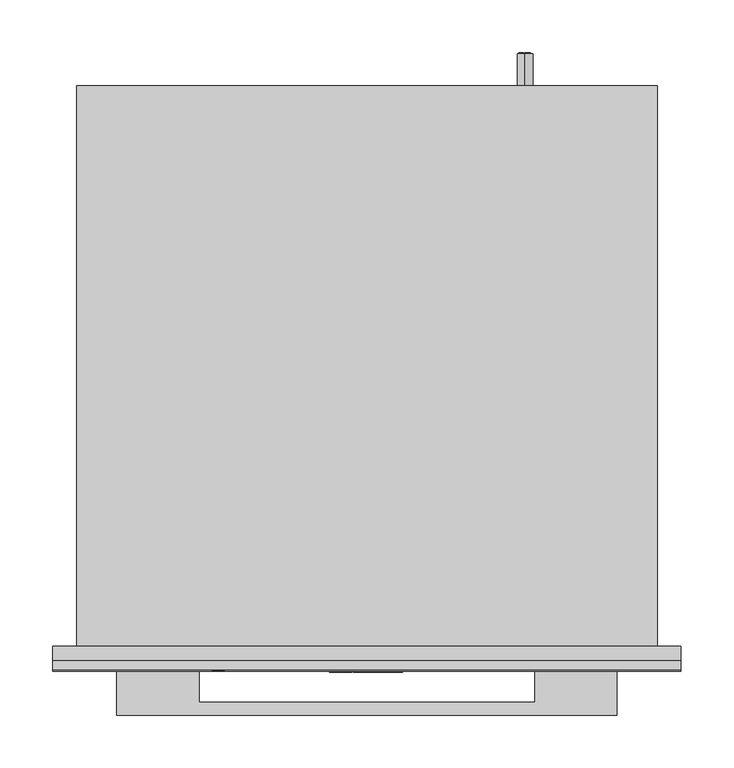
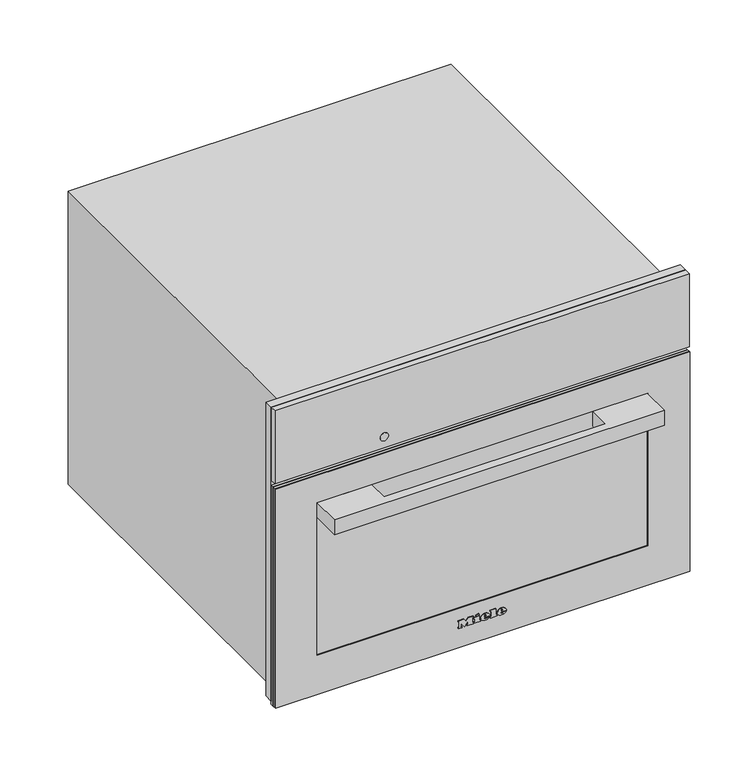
"""IFC4 building model written with IfcOpenShell, lengths in millimetres: proxy geometry, 11106480_D_DGM7340_EDST-CLST : 23734044_D_11106480_DGM7340_EDST-CLST."""

from ifc_helpers import new_model, si_unit, point, frame, frame_2d, origin, place, context, project, spatial, polyline, circle_curve, ellipse_curve, trimmed, segment, composite_curve, outline, extrude, faceted_brep, source, transform, mapped, element, save
from ifc_brep_helpers import plane_surface, cylinder_surface, revolved_surface, extruded_surface, advanced_brep


def specialty_equipment_3689ec75(model_context):
    return source(origin(), model_context, "Body", "SolidModel", [
        extrude(outline(polyline([(455.0, 297.5), (455.0, -297.5), (9.0, -297.5), (9.0, -272.5), (344.0, -272.5), (344.0, 272.5), (9.0, 272.5), (9.0, 297.5), (455.0, 297.5)])), frame((0.0, -13.0, 0.0), z_axis=(0.0, 1.0, 0.0), x_axis=(0.0, 0.0, 1.0)), (0.0, 0.0, 1.0), 13.0),
        advanced_brep(
        [(150.0, 561.0, 410.5), (150.0, 561.0, 395.5), (144.4098301, 561.0, 398.0), (148.5, 561.0, 398.0), (148.5, 561.0, 408.0), (147.4955303, 561.0, 408.0), (147.4955303, 561.0, 399.0), (144.0315043, 561.0, 399.0), (144.0315043, 561.0, 398.4582978), (155.0, 561.0, 398.0), (155.0, 561.0, 408.0), (150.0, 561.0, 408.0), (150.0, 561.0, 407.0), (154.0, 561.0, 407.0), (154.0, 561.0, 403.5), (151.0, 561.0, 403.5), (151.0, 561.0, 402.5), (154.0, 561.0, 402.5), (154.0, 561.0, 399.0), (150.0, 561.0, 399.0), (150.0, 561.0, 398.0), (150.0, 531.0, 395.5), (150.0, 531.0, 410.5), (155.0, 562.0, 408.0), (155.0, 562.0, 398.0), (150.0, 562.0, 398.0), (150.0, 562.0, 399.0), (154.0, 562.0, 399.0), (154.0, 562.0, 402.5), (151.0, 562.0, 402.5), (151.0, 562.0, 403.5), (154.0, 562.0, 403.5), (154.0, 562.0, 407.0), (150.0, 562.0, 407.0), (150.0, 562.0, 408.0), (148.5, 562.0, 398.0), (144.0315043, 562.0, 398.0), (144.0315043, 562.0, 399.0), (147.4955303, 562.0, 399.0), (147.4955303, 562.0, 408.0), (148.5, 562.0, 408.0), (144.0315043, 561.0, 398.0)],
        [
            (0, 1, circle_curve(frame((150.0, 561.0, 403.0), z_axis=(0.0, 1.0, 0.0), x_axis=(0.0, 0.0, 1.0)), 7.5)),
            (1, 2, circle_curve(frame((150.0, 561.0, 403.0), z_axis=(0.0, 1.0, 0.0), x_axis=(0.0, 0.0, 1.0)), 7.5)),
            (2, 3),
            (3, 4),
            (4, 5),
            (5, 6),
            (6, 7),
            (7, 8),
            (8, 0, circle_curve(frame((150.0, 561.0, 403.0), z_axis=(0.0, 1.0, 0.0), x_axis=(0.0, 0.0, 1.0)), 7.5)),
            (9, 10),
            (10, 11),
            (11, 12),
            (12, 13),
            (13, 14),
            (14, 15),
            (15, 16),
            (16, 17),
            (17, 18),
            (18, 19),
            (19, 20),
            (20, 9),
            (21, 22, circle_curve(frame((150.0, 531.0, 403.0), z_axis=(0.0, -1.0, 0.0), x_axis=(0.0, 0.0, 1.0)), 7.5)),
            (22, 21, circle_curve(frame((150.0, 531.0, 403.0), z_axis=(0.0, -1.0, 0.0), x_axis=(0.0, 0.0, 1.0)), 7.5)),
            (0, 22),
            (21, 1),
            (8, 2, circle_curve(frame((150.0, 561.0, 403.0), z_axis=(0.0, -1.0, 0.0), x_axis=(0.0, 0.0, 1.0)), 7.5)),
            (23, 24),
            (24, 25),
            (25, 26),
            (26, 27),
            (27, 28),
            (28, 29),
            (29, 30),
            (30, 31),
            (31, 32),
            (32, 33),
            (33, 34),
            (34, 23),
            (35, 36),
            (36, 37),
            (37, 38),
            (38, 39),
            (39, 40),
            (40, 35),
            (8, 41),
            (41, 2),
            (23, 10),
            (9, 24),
            (20, 25),
            (19, 26),
            (18, 27),
            (17, 28),
            (16, 29),
            (15, 30),
            (14, 31),
            (13, 32),
            (12, 33),
            (11, 34),
            (35, 3),
            (41, 36),
            (7, 37),
            (6, 38),
            (5, 39),
            (4, 40),
        ],
        [
            plane_surface(frame((150.0, 561.0, 410.5), z_axis=(0.0, 1.0, 0.0), x_axis=(1.0, 0.0, 0.0))),
            plane_surface(frame((150.0, 531.0, 410.5), z_axis=(0.0, -1.0, 0.0), x_axis=(-1.0, 0.0, 0.0))),
            cylinder_surface(frame((150.0, 561.0, 403.0), z_axis=(0.0, -1.0, 0.0), x_axis=(0.0, 0.0, 1.0)), 7.5),
            plane_surface(frame((155.0, 562.0, 408.0), z_axis=(0.0, 1.0, 0.0), x_axis=(0.0, 0.0, -1.0))),
            plane_surface(frame((155.0, 561.0, 408.0), z_axis=(0.0, -1.0, 0.0), x_axis=(0.0, 0.0, 1.0))),
            plane_surface(frame((155.0, 562.0, 408.0), z_axis=(1.0, 0.0, 0.0), x_axis=(0.0, -1.0, 0.0))),
            plane_surface(frame((155.0, 562.0, 398.0), z_axis=(0.0, 0.0, -1.0), x_axis=(0.0, -1.0, 0.0))),
            plane_surface(frame((150.0, 562.0, 398.0), z_axis=(-1.0, 0.0, 0.0), x_axis=(0.0, -1.0, 0.0))),
            plane_surface(frame((150.0, 562.0, 399.0), z_axis=(0.0, 0.0, 1.0), x_axis=(0.0, -1.0, 0.0))),
            plane_surface(frame((154.0, 562.0, 399.0), z_axis=(-1.0, 0.0, 0.0), x_axis=(0.0, -1.0, 0.0))),
            plane_surface(frame((154.0, 562.0, 402.5), z_axis=(0.0, 0.0, -1.0), x_axis=(0.0, -1.0, 0.0))),
            plane_surface(frame((151.0, 562.0, 402.5), z_axis=(-1.0, 0.0, 0.0), x_axis=(0.0, -1.0, 0.0))),
            plane_surface(frame((151.0, 562.0, 403.5), z_axis=(0.0, 0.0, 1.0), x_axis=(0.0, -1.0, 0.0))),
            plane_surface(frame((154.0, 562.0, 403.5), z_axis=(-1.0, 0.0, 0.0), x_axis=(0.0, -1.0, 0.0))),
            plane_surface(frame((154.0, 562.0, 407.0), z_axis=(0.0, 0.0, -1.0), x_axis=(0.0, -1.0, 0.0))),
            plane_surface(frame((150.0, 562.0, 407.0), z_axis=(-1.0, 0.0, 0.0), x_axis=(0.0, -1.0, 0.0))),
            plane_surface(frame((150.0, 562.0, 408.0), z_axis=(0.0, 0.0, 1.0), x_axis=(0.0, -1.0, 0.0))),
            plane_surface(frame((148.5, 562.0, 398.0), z_axis=(0.0, 0.0, -1.0), x_axis=(0.0, -1.0, 0.0))),
            plane_surface(frame((144.0315043, 562.0, 398.0), z_axis=(-1.0, 0.0, 0.0), x_axis=(0.0, -1.0, 0.0))),
            plane_surface(frame((144.0315043, 562.0, 399.0), z_axis=(0.0, 0.0, 1.0), x_axis=(0.0, -1.0, 0.0))),
            plane_surface(frame((147.4955303, 562.0, 399.0), z_axis=(-1.0, 0.0, 0.0), x_axis=(0.0, -1.0, 0.0))),
            plane_surface(frame((147.4955303, 562.0, 408.0), z_axis=(0.0, 0.0, 1.0), x_axis=(0.0, -1.0, 0.0))),
            plane_surface(frame((148.5, 562.0, 408.0), z_axis=(1.0, 0.0, 0.0), x_axis=(0.0, -1.0, 0.0))),
        ],
        [
            (0, [[1, 2, 3, 4, 5, 6, 7, 8, 9], [10, 11, 12, 13, 14, 15, 16, 17, 18, 19, 20, 21]]),
            (1, [[22, 23]]),
            (2, [[-1, 24, -22, 25]]),
            (2, [[-23, -24, -9, 26, -2, -25]]),
            (3, [[27, 28, 29, 30, 31, 32, 33, 34, 35, 36, 37, 38]]),
            (3, [[39, 40, 41, 42, 43, 44]]),
            (4, [[45, 46, -26]]),
            (5, [[-27, 47, -10, 48]]),
            (6, [[-28, -48, -21, 49]]),
            (7, [[-29, -49, -20, 50]]),
            (8, [[-30, -50, -19, 51]]),
            (9, [[-31, -51, -18, 52]]),
            (10, [[-32, -52, -17, 53]]),
            (11, [[-33, -53, -16, 54]]),
            (12, [[-34, -54, -15, 55]]),
            (13, [[-35, -55, -14, 56]]),
            (14, [[-36, -56, -13, 57]]),
            (15, [[-37, -57, -12, 58]]),
            (16, [[-38, -58, -11, -47]]),
            (17, [[-39, 59, -3, -46, 60]]),
            (18, [[-40, -60, -45, -8, 61]]),
            (19, [[-41, -61, -7, 62]]),
            (20, [[-42, -62, -6, 63]]),
            (21, [[-43, -63, -5, 64]]),
            (22, [[-44, -64, -4, -59]]),
        ],
    ),
        faceted_brep([(275.0, 531.0, 445.0), (275.0, 531.0, 0.0), (-275.0, 531.0, 0.0), (-275.0, 531.0, 445.0), (275.0, 0.0, 445.0), (-275.0, 0.0, 445.0), (-275.0, 0.0, 0.0), (275.0, 0.0, 0.0), (-272.5, 0.0, 344.0), (272.5, 0.0, 344.0), (272.5, 0.0, 8.0), (-272.5, 0.0, 8.0), (272.5, 12.0, 344.0), (-272.5, 12.0, 344.0), (-272.5, 12.0, 8.0), (272.5, 12.0, 8.0), (161.0, 12.0, 286.0), (161.0, 12.0, 58.0), (-220.0, 12.0, 58.0), (-220.0, 12.0, 286.0), (161.0, 419.0, 286.0), (-220.0, 419.0, 286.0), (-220.0, 419.0, 58.0), (161.0, 419.0, 58.0)], [[[0, 1, 2, 3]], [[4, 5, 6, 7], [8, 9, 10, 11]], [[0, 3, 5, 4]], [[3, 2, 6, 5]], [[2, 1, 7, 6]], [[1, 0, 4, 7]], [[12, 13, 14, 15], [16, 17, 18, 19]], [[13, 12, 9, 8]], [[14, 13, 8, 11]], [[15, 14, 11, 10]], [[12, 15, 10, 9]], [[20, 21, 22, 23]], [[20, 23, 17, 16]], [[23, 22, 18, 17]], [[22, 21, 19, 18]], [[21, 20, 16, 19]]]),
        advanced_brep(
        [(26.2998, -24.3, 36.7018), (26.2998, -24.3, 37.8532), (33.9264, -24.3, 37.8532), (20.6568, -24.3, 37.8532), (23.7918, -24.3, 34.0), (33.7326, -24.3, 36.7018), (30.2898, -24.3, 36.7018), (27.5766, -24.3, 35.425), (26.2998, -24.3, 39.3124), (26.2998, -24.3, 40.555), (28.2492, -24.3, 40.555), (28.2492, -24.3, 39.3124), (26.2998, -23.3, 36.7018), (27.5766, -23.3, 35.425), (30.2898, -23.3, 36.7018), (33.7326, -23.3, 36.7018), (23.7918, -23.3, 34.0), (20.6568, -23.3, 37.8532), (33.9264, -23.3, 37.8532), (26.2998, -23.3, 37.8532), (26.2998, -23.3, 39.3124), (28.2492, -23.3, 39.3124), (28.2492, -23.3, 40.555), (26.2998, -23.3, 40.555)],
        [
            (0, 1),
            (1, 2),
            (2, 3, ellipse_curve(frame((27.2916, -24.3, 37.8532), z_axis=(0.0, -1.0, 0.0), x_axis=(-1.0, 0.0, 0.0)), 6.6348, 5.4834)),
            (3, 4, circle_curve(frame((25.0686622, -24.3, 38.2408), z_axis=(0.0, -1.0, 0.0), x_axis=(0.0, 0.0, -1.0)), 4.4288556)),
            (4, 5, circle_curve(frame((27.1587808, -24.3, 41.2504), z_axis=(0.0, -1.0, 0.0), x_axis=(0.0, 0.0, -1.0)), 7.9940516)),
            (5, 6),
            (6, 7, circle_curve(frame((28.1338588, -24.3, 37.762), z_axis=(0.0, 1.0, 0.0), x_axis=(0.0, 0.0, -1.0)), 2.4025208)),
            (7, 0, circle_curve(frame((27.5766, -24.3, 36.7018), z_axis=(0.0, 1.0, 0.0), x_axis=(0.0, 0.0, -1.0)), 1.2768)),
            (8, 9),
            (9, 10, circle_curve(frame((27.2745, -24.3, 40.555), z_axis=(0.0, 1.0, 0.0), x_axis=(0.0, 0.0, -1.0)), 0.9747)),
            (10, 11),
            (11, 8),
            (12, 13, circle_curve(frame((27.5766, -23.3, 36.7018), z_axis=(0.0, -1.0, 0.0), x_axis=(0.0, 0.0, -1.0)), 1.2768)),
            (13, 14, circle_curve(frame((28.1338588, -23.3, 37.762), z_axis=(0.0, -1.0, 0.0), x_axis=(0.0, 0.0, -1.0)), 2.4025208)),
            (14, 15),
            (15, 16, circle_curve(frame((27.1587808, -23.3, 41.2504), z_axis=(0.0, 1.0, 0.0), x_axis=(0.0, 0.0, -1.0)), 7.9940516)),
            (16, 17, circle_curve(frame((25.0686622, -23.3, 38.2408), z_axis=(0.0, 1.0, 0.0), x_axis=(0.0, 0.0, -1.0)), 4.4288556)),
            (17, 18, ellipse_curve(frame((27.2916, -23.3, 37.8532), z_axis=(0.0, 1.0, 0.0), x_axis=(-1.0, 0.0, 0.0)), 6.6348, 5.4834)),
            (18, 19),
            (19, 12),
            (20, 21),
            (21, 22),
            (22, 23, circle_curve(frame((27.2745, -23.3, 40.555), z_axis=(0.0, -1.0, 0.0), x_axis=(0.0, 0.0, -1.0)), 0.9747)),
            (23, 20),
            (0, 12),
            (19, 1),
            (18, 2),
            (5, 15),
            (14, 6),
            (17, 3),
            (13, 7),
            (16, 4),
            (8, 20),
            (23, 9),
            (22, 10),
            (21, 11),
        ],
        [
            plane_surface(frame((26.2998, -24.3, 37.8532), z_axis=(0.0, -1.0, 0.0), x_axis=(0.0, 0.0, 1.0))),
            plane_surface(frame((26.2998, -23.3, 37.8532), z_axis=(0.0, 1.0, 0.0), x_axis=(0.0, 0.0, -1.0))),
            plane_surface(frame((26.2998, -24.3, 36.7018), z_axis=(1.0, 0.0, 0.0), x_axis=(0.0, 1.0, 0.0))),
            plane_surface(frame((26.2998, -24.3, 37.8532), z_axis=(0.0, 0.0, -1.0), x_axis=(0.0, 1.0, 0.0))),
            plane_surface(frame((33.7326, -24.3, 36.7018), z_axis=(0.0, 0.0, 1.0), x_axis=(0.0, 1.0, 0.0))),
            extruded_surface(trimmed(ellipse_curve(frame((27.2916, -22.3, 37.8532), z_axis=(0.0, -1.0, 0.0), x_axis=(-1.0, 0.0, 0.0)), 6.6348, 5.4834), [point((33.9264, -22.3, 37.8532))], [point((20.6568, -22.3, 37.8532))], True, "CARTESIAN"), (0.0, -1.0, 0.0), 1.0),
            revolved_surface(polyline([(28.1338588, -23.3, 35.3594792), (28.1338588, -24.3, 35.3594792)]), (28.1338588, -23.3, 37.762), (0.0, 1.0, 0.0)),
            revolved_surface(polyline([(27.5766, -23.3, 35.425), (27.5766, -24.3, 35.425)]), (27.5766, -23.3, 36.7018), (0.0, 1.0, 0.0)),
            cylinder_surface(frame((25.0686622, -23.3, 38.2408), z_axis=(0.0, -1.0, 0.0), x_axis=(0.0, 0.0, -1.0)), 4.4288556),
            cylinder_surface(frame((27.1587808, -23.3, 41.2504), z_axis=(0.0, -1.0, 0.0), x_axis=(0.0, 0.0, -1.0)), 7.9940516),
            plane_surface(frame((26.2998, -24.3, 39.3124), z_axis=(1.0, 0.0, 0.0), x_axis=(0.0, 1.0, 0.0))),
            revolved_surface(polyline([(27.2745, -23.3, 39.5803), (27.2745, -24.3, 39.5803)]), (27.2745, -23.3, 40.555), (0.0, 1.0, 0.0)),
            plane_surface(frame((28.2492, -24.3, 40.555), z_axis=(-1.0, 0.0, 0.0), x_axis=(0.0, 1.0, 0.0))),
            plane_surface(frame((28.2492, -24.3, 39.3124), z_axis=(0.0, 0.0, 1.0), x_axis=(0.0, 1.0, 0.0))),
        ],
        [
            (0, [[1, 2, 3, 4, 5, 6, 7, 8], [9, 10, 11, 12]]),
            (1, [[13, 14, 15, 16, 17, 18, 19, 20], [21, 22, 23, 24]]),
            (2, [[-1, 25, -20, 26]]),
            (3, [[-2, -26, -19, 27]]),
            (4, [[-6, 28, -15, 29]]),
            (5, [[-3, -27, -18, 30]]),
            (6, [[-7, -29, -14, 31]]),
            (7, [[-8, -31, -13, -25]]),
            (8, [[-4, -30, -17, 32]]),
            (9, [[-5, -32, -16, -28]]),
            (10, [[-9, 33, -24, 34]]),
            (11, [[-10, -34, -23, 35]]),
            (12, [[-11, -35, -22, 36]]),
            (13, [[-12, -36, -21, -33]]),
        ],
    ),
        advanced_brep(
        [(2.508, -24.3, 36.7018), (2.508, -24.3, 37.8532), (10.1346, -24.3, 37.8532), (-3.135, -24.3, 37.8532), (0.0, -24.3, 34.0), (9.9408, -24.3, 36.7018), (6.498, -24.3, 36.7018), (3.7848, -24.3, 35.425), (2.508, -24.3, 39.3124), (2.508, -24.3, 40.555), (4.4574, -24.3, 40.555), (4.4574, -24.3, 39.3124), (2.508, -23.3, 36.7018), (3.7848, -23.3, 35.425), (6.498, -23.3, 36.7018), (9.9408, -23.3, 36.7018), (0.0, -23.3, 34.0), (-3.135, -23.3, 37.8532), (10.1346, -23.3, 37.8532), (2.508, -23.3, 37.8532), (2.508, -23.3, 39.3124), (4.4574, -23.3, 39.3124), (4.4574, -23.3, 40.555), (2.508, -23.3, 40.555)],
        [
            (0, 1),
            (1, 2),
            (2, 3, ellipse_curve(frame((3.4998, -24.3, 37.8532), z_axis=(0.0, -1.0, 0.0), x_axis=(-1.0, 0.0, 0.0)), 6.6348, 5.4834)),
            (3, 4, circle_curve(frame((1.2768622, -24.3, 38.2408), z_axis=(0.0, -1.0, 0.0), x_axis=(0.0, 0.0, -1.0)), 4.4288556)),
            (4, 5, circle_curve(frame((3.3669808, -24.3, 41.2504), z_axis=(0.0, -1.0, 0.0), x_axis=(0.0, 0.0, -1.0)), 7.9940516)),
            (5, 6),
            (6, 7, circle_curve(frame((4.3420588, -24.3, 37.762), z_axis=(0.0, 1.0, 0.0), x_axis=(0.0, 0.0, -1.0)), 2.4025208)),
            (7, 0, circle_curve(frame((3.7848, -24.3, 36.7018), z_axis=(0.0, 1.0, 0.0), x_axis=(0.0, 0.0, -1.0)), 1.2768)),
            (8, 9),
            (9, 10, circle_curve(frame((3.4827, -24.3, 40.555), z_axis=(0.0, 1.0, 0.0), x_axis=(0.0, 0.0, -1.0)), 0.9747)),
            (10, 11),
            (11, 8),
            (12, 13, circle_curve(frame((3.7848, -23.3, 36.7018), z_axis=(0.0, -1.0, 0.0), x_axis=(0.0, 0.0, -1.0)), 1.2768)),
            (13, 14, circle_curve(frame((4.3420588, -23.3, 37.762), z_axis=(0.0, -1.0, 0.0), x_axis=(0.0, 0.0, -1.0)), 2.4025208)),
            (14, 15),
            (15, 16, circle_curve(frame((3.3669808, -23.3, 41.2504), z_axis=(0.0, 1.0, 0.0), x_axis=(0.0, 0.0, -1.0)), 7.9940516)),
            (16, 17, circle_curve(frame((1.2768622, -23.3, 38.2408), z_axis=(0.0, 1.0, 0.0), x_axis=(0.0, 0.0, -1.0)), 4.4288556)),
            (17, 18, ellipse_curve(frame((3.4998, -23.3, 37.8532), z_axis=(0.0, 1.0, 0.0), x_axis=(-1.0, 0.0, 0.0)), 6.6348, 5.4834)),
            (18, 19),
            (19, 12),
            (20, 21),
            (21, 22),
            (22, 23, circle_curve(frame((3.4827, -23.3, 40.555), z_axis=(0.0, -1.0, 0.0), x_axis=(0.0, 0.0, -1.0)), 0.9747)),
            (23, 20),
            (0, 12),
            (19, 1),
            (18, 2),
            (5, 15),
            (14, 6),
            (17, 3),
            (13, 7),
            (16, 4),
            (8, 20),
            (23, 9),
            (22, 10),
            (21, 11),
        ],
        [
            plane_surface(frame((2.508, -24.3, 37.8532), z_axis=(0.0, -1.0, 0.0), x_axis=(0.0, 0.0, 1.0))),
            plane_surface(frame((2.508, -23.3, 37.8532), z_axis=(0.0, 1.0, 0.0), x_axis=(0.0, 0.0, -1.0))),
            plane_surface(frame((2.508, -24.3, 36.7018), z_axis=(1.0, 0.0, 0.0), x_axis=(0.0, 1.0, 0.0))),
            plane_surface(frame((2.508, -24.3, 37.8532), z_axis=(0.0, 0.0, -1.0), x_axis=(0.0, 1.0, 0.0))),
            plane_surface(frame((9.9408, -24.3, 36.7018), z_axis=(0.0, 0.0, 1.0), x_axis=(0.0, 1.0, 0.0))),
            extruded_surface(trimmed(ellipse_curve(frame((3.4998, -22.3, 37.8532), z_axis=(0.0, -1.0, 0.0), x_axis=(-1.0, 0.0, 0.0)), 6.6348, 5.4834), [point((10.1346, -22.3, 37.8532))], [point((-3.135, -22.3, 37.8532))], True, "CARTESIAN"), (0.0, -1.0, 0.0), 1.0),
            revolved_surface(polyline([(4.3420588, -23.3, 35.3594792), (4.3420588, -24.3, 35.3594792)]), (4.3420588, -23.3, 37.762), (0.0, 1.0, 0.0)),
            revolved_surface(polyline([(3.7848, -23.3, 35.425), (3.7848, -24.3, 35.425)]), (3.7848, -23.3, 36.7018), (0.0, 1.0, 0.0)),
            cylinder_surface(frame((1.2768622, -23.3, 38.2408), z_axis=(0.0, -1.0, 0.0), x_axis=(0.0, 0.0, -1.0)), 4.4288556),
            cylinder_surface(frame((3.3669808, -23.3, 41.2504), z_axis=(0.0, -1.0, 0.0), x_axis=(0.0, 0.0, -1.0)), 7.9940516),
            plane_surface(frame((2.508, -24.3, 39.3124), z_axis=(1.0, 0.0, 0.0), x_axis=(0.0, 1.0, 0.0))),
            revolved_surface(polyline([(3.4827, -23.3, 39.5803), (3.4827, -24.3, 39.5803)]), (3.4827, -23.3, 40.555), (0.0, 1.0, 0.0)),
            plane_surface(frame((4.4574, -24.3, 40.555), z_axis=(-1.0, 0.0, 0.0), x_axis=(0.0, 1.0, 0.0))),
            plane_surface(frame((4.4574, -24.3, 39.3124), z_axis=(0.0, 0.0, 1.0), x_axis=(0.0, 1.0, 0.0))),
        ],
        [
            (0, [[1, 2, 3, 4, 5, 6, 7, 8], [9, 10, 11, 12]]),
            (1, [[13, 14, 15, 16, 17, 18, 19, 20], [21, 22, 23, 24]]),
            (2, [[-1, 25, -20, 26]]),
            (3, [[-2, -26, -19, 27]]),
            (4, [[-6, 28, -15, 29]]),
            (5, [[-3, -27, -18, 30]]),
            (6, [[-7, -29, -14, 31]]),
            (7, [[-8, -31, -13, -25]]),
            (8, [[-4, -30, -17, 32]]),
            (9, [[-5, -32, -16, -28]]),
            (10, [[-9, 33, -24, 34]]),
            (11, [[-10, -34, -23, 35]]),
            (12, [[-11, -35, -22, 36]]),
            (13, [[-12, -36, -21, -33]]),
        ],
    ),
        extrude(outline(polyline([(44.7274, -9.9522), (42.8806, -9.0858), (44.6818, -5.2212), (46.5286, -6.0762), (44.7274, -9.9522)])), frame((0.0, -24.3, 0.0), z_axis=(0.0, 1.0, 0.0), x_axis=(0.0, 0.0, 1.0)), (0.0, 0.0, 1.0), 1.0),
        extrude(outline(polyline([(42.6298, -12.768), (40.5892, -12.768), (40.5892, -11.4114), (35.9152, -11.4114), (35.9152, -12.768), (34.0, -12.768), (34.0, -3.7734), (35.9152, -3.7734), (35.9152, -5.0958), (42.6298, -5.0958), (42.6298, -12.768)])), frame((0.0, -24.3, 0.0), z_axis=(0.0, 1.0, 0.0), x_axis=(0.0, 0.0, 1.0)), (0.0, 0.0, 1.0), 1.0),
        extrude(outline(polyline([(43.5418, 10.773), (43.5418, 12.141), (35.9152, 12.141), (35.9152, 10.773), (34.0, 10.773), (34.0, 20.0184), (35.9152, 20.0184), (35.9152, 18.6162), (45.4, 18.6162), (45.4, 10.773), (43.5418, 10.773)])), frame((0.0, -24.3, 0.0), z_axis=(0.0, 1.0, 0.0), x_axis=(0.0, 0.0, 1.0)), (0.0, 0.0, 1.0), 1.0),
        extrude(outline(polyline([(43.5418, -35.4882), (43.5418, -34.1088), (35.9152, -34.1088), (35.9152, -35.4882), (34.0, -35.4882), (34.0, -30.4722), (35.9152, -30.4722), (35.9152, -31.8402), (40.7429247, -31.8402), (34.0, -26.7444), (40.9402223, -21.6258), (35.9152, -21.6258), (35.9152, -23.028), (34.0, -23.028), (34.0, -13.9308), (35.9152, -13.9308), (35.9152, -15.3786), (43.5418, -15.3786), (43.5418, -13.9308), (45.4, -13.9308), (45.4, -20.8734), (41.125, -24.2022), (45.4, -27.5424), (45.4, -35.4882), (43.5418, -35.4882)])), frame((0.0, -24.3, 0.0), z_axis=(0.0, 1.0, 0.0), x_axis=(0.0, 0.0, 1.0)), (0.0, 0.0, 1.0), 1.0),
        extrude(outline(polyline([(297.5, -22.0), (-297.5, -22.0), (-297.5, -13.0), (297.5, -13.0), (297.5, -22.0)])), frame((0.0, 0.0, 344.0), z_axis=(0.0, 0.0, 1.0), x_axis=(1.0, 0.0, 0.0)), (0.0, 0.0, 1.0), 111.0),
        extrude(outline(composite_curve([segment(trimmed(circle_curve(frame_2d((361.0, -140.5745637)), 6.0), [point((361.0, -146.5745637))], [point((361.0, -134.5745637))], False, "CARTESIAN"), True, "CONTINUOUS"), segment(trimmed(circle_curve(frame_2d((361.0, -140.5745637)), 6.0), [point((361.0, -134.5745637))], [point((361.0, -146.5745637))], False, "CARTESIAN"), True, "CONTINUOUS")], self_intersect=False)), frame((0.0, -22.5, 0.0), z_axis=(0.0, 1.0, 0.0), x_axis=(0.0, 0.0, 1.0)), (0.0, 0.0, 1.0), 1.0),
        extrude(outline(polyline([(297.5, -18.0), (-297.5, -18.0), (-297.5, -13.0), (297.5, -13.0), (297.5, -18.0)])), frame((0.0, 0.0, 4.0), z_axis=(0.0, 0.0, 1.0), x_axis=(1.0, 0.0, 0.0)), (0.0, 0.0, 1.0), 333.0),
        extrude(outline(polyline([(337.0, 297.5), (337.0, -297.5), (4.0, -297.5), (4.0, 297.5), (337.0, 297.5)]), holes=[polyline([(295.5, -237.5), (295.5, 237.5), (64.0, 237.5), (64.0, -237.5), (295.5, -237.5)])]), frame((0.0, -23.3, 0.0), z_axis=(0.0, 1.0, 0.0), x_axis=(0.0, 0.0, 1.0)), (0.0, 0.0, 1.0), 1.3),
        extrude(outline(polyline([(-159.0, -22.0), (-159.0, -53.0), (159.0, -53.0), (159.0, -22.0), (237.0, -22.0), (237.0, -65.0), (-237.0, -65.0), (-237.0, -22.0), (-159.0, -22.0)])), frame((0.0, 0.0, 272.0), z_axis=(0.0, 0.0, 1.0), x_axis=(1.0, 0.0, 0.0)), (0.0, 0.0, 1.0), 22.5),
        extrude(outline(polyline([(297.5, -22.0), (-297.5, -22.0), (-297.5, -18.0), (297.5, -18.0), (297.5, -22.0)])), frame((0.0, 0.0, 4.0), z_axis=(0.0, 0.0, 1.0), x_axis=(1.0, 0.0, 0.0)), (0.0, 0.0, 1.0), 333.0),
    ])


if __name__ == "__main__":
    model = new_model("IFC4")
    model_context = context("Model", 3, world=origin())
    ifc_project = project(units=[si_unit("LENGTHUNIT", "METRE", prefix="MILLI")], contexts=[model_context])
    site = spatial("IfcSite", under=ifc_project)
    building = spatial("IfcBuilding", under=site)
    placement = place(None, origin())
    specialty_equipment_shape = specialty_equipment_3689ec75(model_context)
    element("IfcBuildingElementProxy", 1, Name="11106480_D_DGM7340_EDST-CLST : 23734044_D_11106480_DGM7340_EDST-CLST", ObjectType="11106480_D_DGM7340_EDST-CLST : 23734044_D_11106480_DGM7340_EDST-CLST", at=placement, inside=building, context=model_context, shape_type="MappedRepresentation", body=[
        mapped(specialty_equipment_shape, transform((0.0, 0.0, 0.0), x_axis=(1.0, 0.0, 0.0), y_axis=(0.0, 1.0, 0.0), z_axis=(0.0, 0.0, 1.0))),
    ])
    save(model, "model.ifc")
